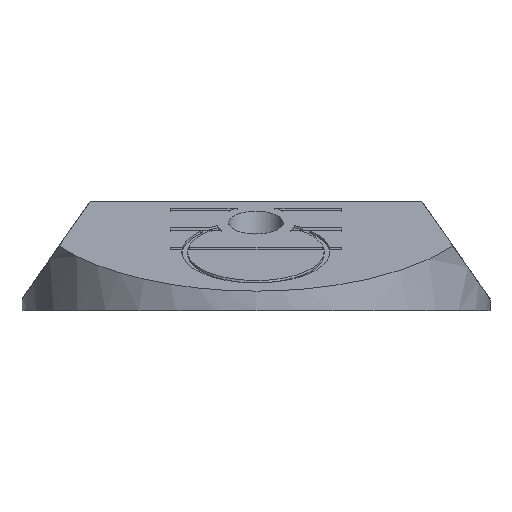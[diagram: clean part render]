
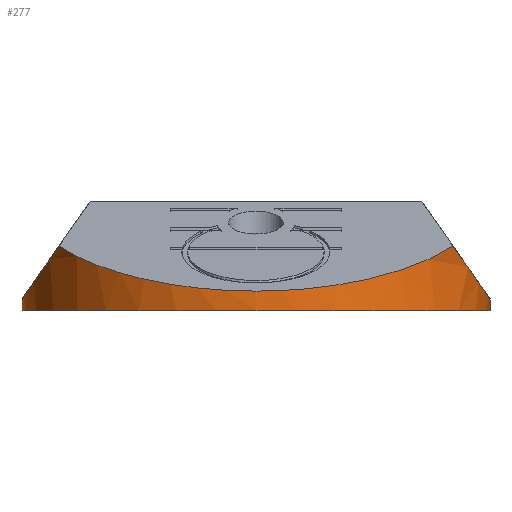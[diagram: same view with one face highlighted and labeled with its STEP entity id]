
A CAD part, left-side view. The second image highlights one B-rep face of the part: STEP entity #277.
In plain terms, the highlighted cylindrical face has radius 60 mm (diameter 120 mm), a partial arc.
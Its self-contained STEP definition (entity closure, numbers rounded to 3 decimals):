
#33 = VERTEX_POINT('',#34);
#34 = CARTESIAN_POINT('',(-50.,-60.,0.));
#40 = EDGE_CURVE('',#41,#33,#43,.T.);
#41 = VERTEX_POINT('',#42);
#42 = CARTESIAN_POINT('',(-110.,0.,0.));
#43 = CIRCLE('',#44,60.);
#44 = AXIS2_PLACEMENT_3D('',#45,#46,#47);
#45 = CARTESIAN_POINT('',(-50.,0.,0.));
#46 = DIRECTION('',(0.,0.,1.));
#47 = DIRECTION('',(1.,0.,0.));
#49 = EDGE_CURVE('',#50,#41,#52,.T.);
#50 = VERTEX_POINT('',#51);
#51 = CARTESIAN_POINT('',(-50.,60.,0.));
#52 = CIRCLE('',#53,60.);
#53 = AXIS2_PLACEMENT_3D('',#54,#55,#56);
#54 = CARTESIAN_POINT('',(-50.,0.,0.));
#55 = DIRECTION('',(0.,0.,1.));
#56 = DIRECTION('',(1.,0.,0.));
#239 = EDGE_CURVE('',#33,#240,#242,.T.);
#240 = VERTEX_POINT('',#241);
#241 = CARTESIAN_POINT('',(-50.,-60.,2.328));
#242 = LINE('',#243,#244);
#243 = CARTESIAN_POINT('',(-50.,-60.,0.));
#244 = VECTOR('',#245,1.);
#245 = DIRECTION('',(0.,0.,1.));
#277 = ADVANCED_FACE('',(#278),#369,.T.);
#278 = FACE_BOUND('',#279,.F.);
#279 = EDGE_LOOP('',(#280,#281,#289,#302,#311,#320,#329,#338,#347,#356,
    #367,#368));
#280 = ORIENTED_EDGE('',*,*,#49,.F.);
#281 = ORIENTED_EDGE('',*,*,#282,.T.);
#282 = EDGE_CURVE('',#50,#283,#285,.T.);
#283 = VERTEX_POINT('',#284);
#284 = CARTESIAN_POINT('',(-50.,60.,2.328));
#285 = LINE('',#286,#287);
#286 = CARTESIAN_POINT('',(-50.,60.,0.));
#287 = VECTOR('',#288,1.);
#288 = DIRECTION('',(0.,0.,1.));
#289 = ORIENTED_EDGE('',*,*,#290,.F.);
#290 = EDGE_CURVE('',#291,#283,#293,.T.);
#291 = VERTEX_POINT('',#292);
#292 = CARTESIAN_POINT('',(-55.326,59.763,
    3.338));
#293 = B_SPLINE_CURVE_WITH_KNOTS('',7,(#294,#295,#296,#297,#298,#299,
    #300,#301),.UNSPECIFIED.,.F.,.F.,(8,8),(0.,1.),
  .PIECEWISE_BEZIER_KNOTS.);
#294 = CARTESIAN_POINT('',(-55.329,59.763,
    3.34));
#295 = CARTESIAN_POINT('',(-54.64,59.824,3.067
    ));
#296 = CARTESIAN_POINT('',(-53.917,59.879,
    2.83));
#297 = CARTESIAN_POINT('',(-53.165,59.926,2.633
    ));
#298 = CARTESIAN_POINT('',(-52.391,59.963,
    2.482));
#299 = CARTESIAN_POINT('',(-51.601,59.987,
    2.379));
#300 = CARTESIAN_POINT('',(-50.802,60.,2.328));
#301 = CARTESIAN_POINT('',(-50.,60.,2.328));
#302 = ORIENTED_EDGE('',*,*,#303,.T.);
#303 = EDGE_CURVE('',#291,#304,#306,.T.);
#304 = VERTEX_POINT('',#305);
#305 = CARTESIAN_POINT('',(-57.564,59.521,
    3.684));
#306 = ELLIPSE('',#307,104.607,60.);
#307 = AXIS2_PLACEMENT_3D('',#308,#309,#310);
#308 = CARTESIAN_POINT('',(-50.,0.,88.689));
#309 = DIRECTION('',(0.,0.819,0.574));
#310 = DIRECTION('',(0.,0.574,-0.819));
#311 = ORIENTED_EDGE('',*,*,#312,.T.);
#312 = EDGE_CURVE('',#304,#313,#315,.T.);
#313 = VERTEX_POINT('',#314);
#314 = CARTESIAN_POINT('',(-82.381,50.512,
    16.55));
#315 = ELLIPSE('',#316,104.607,60.);
#316 = AXIS2_PLACEMENT_3D('',#317,#318,#319);
#317 = CARTESIAN_POINT('',(-50.,0.,88.689));
#318 = DIRECTION('',(0.,0.819,0.574));
#319 = DIRECTION('',(0.,0.574,-0.819));
#320 = ORIENTED_EDGE('',*,*,#321,.F.);
#321 = EDGE_CURVE('',#322,#313,#324,.T.);
#322 = VERTEX_POINT('',#323);
#323 = CARTESIAN_POINT('',(-110.,0.,5.));
#324 = ELLIPSE('',#325,65.035,60.);
#325 = AXIS2_PLACEMENT_3D('',#326,#327,#328);
#326 = CARTESIAN_POINT('',(-50.,0.,30.091));
#327 = DIRECTION('',(0.386,0.,-0.923));
#328 = DIRECTION('',(-0.923,0.,-0.386));
#329 = ORIENTED_EDGE('',*,*,#330,.F.);
#330 = EDGE_CURVE('',#331,#322,#333,.T.);
#331 = VERTEX_POINT('',#332);
#332 = CARTESIAN_POINT('',(-82.381,-50.512,
    16.55));
#333 = ELLIPSE('',#334,65.035,60.);
#334 = AXIS2_PLACEMENT_3D('',#335,#336,#337);
#335 = CARTESIAN_POINT('',(-50.,0.,30.091));
#336 = DIRECTION('',(0.386,0.,-0.923));
#337 = DIRECTION('',(-0.923,0.,-0.386));
#338 = ORIENTED_EDGE('',*,*,#339,.T.);
#339 = EDGE_CURVE('',#331,#340,#342,.T.);
#340 = VERTEX_POINT('',#341);
#341 = CARTESIAN_POINT('',(-57.564,-59.521,
    3.684));
#342 = ELLIPSE('',#343,104.607,60.);
#343 = AXIS2_PLACEMENT_3D('',#344,#345,#346);
#344 = CARTESIAN_POINT('',(-50.,0.,88.689));
#345 = DIRECTION('',(0.,-0.819,0.574));
#346 = DIRECTION('',(0.,-0.574,-0.819));
#347 = ORIENTED_EDGE('',*,*,#348,.T.);
#348 = EDGE_CURVE('',#340,#349,#351,.T.);
#349 = VERTEX_POINT('',#350);
#350 = CARTESIAN_POINT('',(-55.326,-59.763,
    3.338));
#351 = ELLIPSE('',#352,104.607,60.);
#352 = AXIS2_PLACEMENT_3D('',#353,#354,#355);
#353 = CARTESIAN_POINT('',(-50.,0.,88.689));
#354 = DIRECTION('',(0.,-0.819,0.574));
#355 = DIRECTION('',(0.,-0.574,-0.819));
#356 = ORIENTED_EDGE('',*,*,#357,.F.);
#357 = EDGE_CURVE('',#240,#349,#358,.T.);
#358 = B_SPLINE_CURVE_WITH_KNOTS('',7,(#359,#360,#361,#362,#363,#364,
    #365,#366),.UNSPECIFIED.,.F.,.F.,(8,8),(0.,1.),
  .PIECEWISE_BEZIER_KNOTS.);
#359 = CARTESIAN_POINT('',(-50.,-60.,2.328));
#360 = CARTESIAN_POINT('',(-50.802,-60.,2.328));
#361 = CARTESIAN_POINT('',(-51.601,-59.987,
    2.379));
#362 = CARTESIAN_POINT('',(-52.391,-59.963,
    2.482));
#363 = CARTESIAN_POINT('',(-53.165,-59.926,
    2.633));
#364 = CARTESIAN_POINT('',(-53.917,-59.879,2.83
    ));
#365 = CARTESIAN_POINT('',(-54.64,-59.824,3.067
    ));
#366 = CARTESIAN_POINT('',(-55.329,-59.763,
    3.34));
#367 = ORIENTED_EDGE('',*,*,#239,.F.);
#368 = ORIENTED_EDGE('',*,*,#40,.F.);
#369 = CYLINDRICAL_SURFACE('',#370,60.);
#370 = AXIS2_PLACEMENT_3D('',#371,#372,#373);
#371 = CARTESIAN_POINT('',(-50.,0.,0.));
#372 = DIRECTION('',(-0.,-0.,-1.));
#373 = DIRECTION('',(1.,0.,0.));
